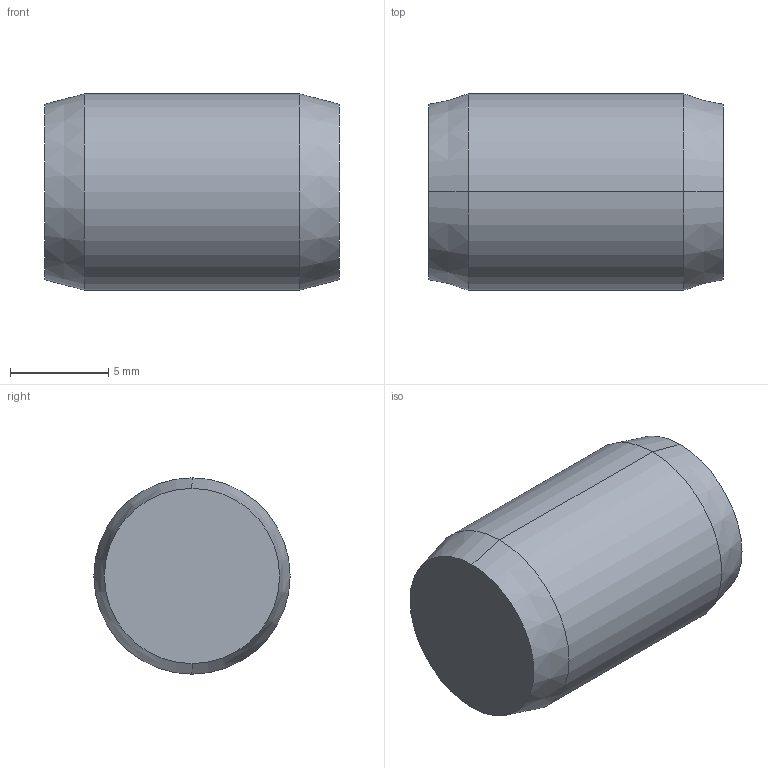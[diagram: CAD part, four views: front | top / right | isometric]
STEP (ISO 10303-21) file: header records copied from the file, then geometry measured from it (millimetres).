
FILE_DESCRIPTION (( 'STEP AP203' ), '1' );
FILE_NAME ('parallel pin unhardened_iso - 15.STEP', '2022-04-13T08:03:47', ( '' ), ( '' ), 'SwSTEP 2.0', 'SolidWorks 2021', '' );
FILE_SCHEMA (( 'CONFIG_CONTROL_DESIGN' ));
Length unit declared in the file: millimetre
Products named in the file (1): parallel pin unhardened_iso - 15
Bounding box: 15 x 10 x 10 mm (x, y, z)
Volume: 1145.6 mm3; surface area: 593.9 mm2
Topology: 1 solids, 1 shells, 8 faces, 14 edges, 8 vertices
Faces by surface type: cone 4, cylinder 2, plane 2
Entity records: 271 total; most frequent: DIRECTION 40, CARTESIAN_POINT 31, ORIENTED_EDGE 28, AXIS2_PLACEMENT_3D 17, EDGE_CURVE 14, FACE_OUTER_BOUND 8, VERTEX_POINT 8, CIRCLE 8
